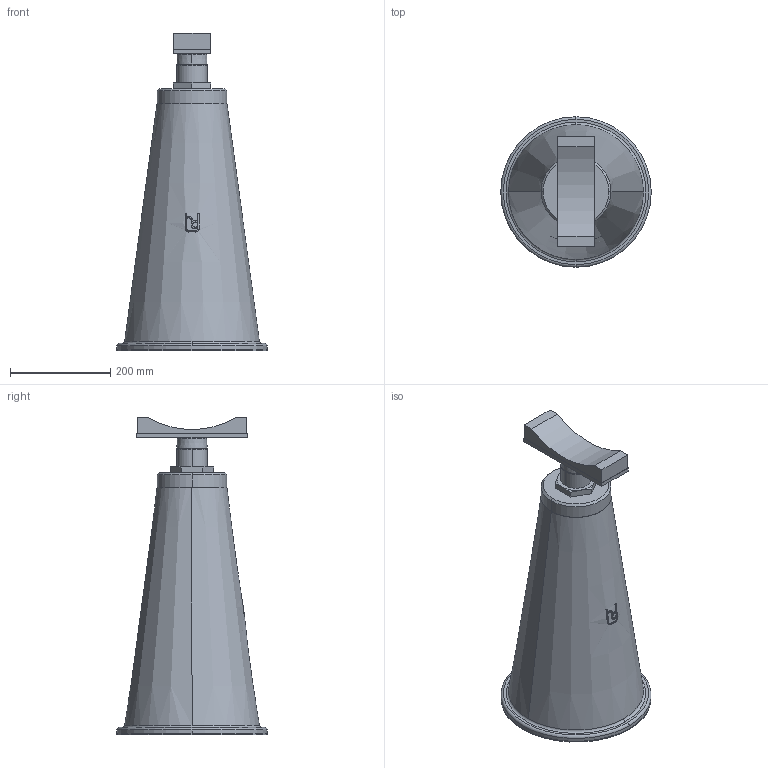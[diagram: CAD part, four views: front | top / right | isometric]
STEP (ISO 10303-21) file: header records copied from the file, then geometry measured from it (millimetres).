
FILE_DESCRIPTION(('STEP AP214'),'1');
FILE_NAME('RSRFC_DN350.stp','2018-06-27T09:59:24',(' '),(' '),'Spatial InterOp 3D',' ',' ');
FILE_SCHEMA(('automotive_design'));
Length unit declared in the file: millimetre
Products named in the file (6): 1; 2; 3; 4; 5; 6
Bounding box: 300 x 300 x 632.11 mm (x, y, z)
Volume: 18953001.3 mm3; surface area: 749157.7 mm2
Topology: 6 solids, 6 shells, 113 faces, 279 edges, 183 vertices
Faces by surface type: plane 50, cylinder 32, cone 23, torus 8
Entity records: 4957 total; most frequent: CARTESIAN_POINT 1243, DIRECTION 569, ORIENTED_EDGE 558, EDGE_CURVE 279, AXIS2_PLACEMENT_3D 219, VERTEX_POINT 183, LINE 131, VECTOR 131
